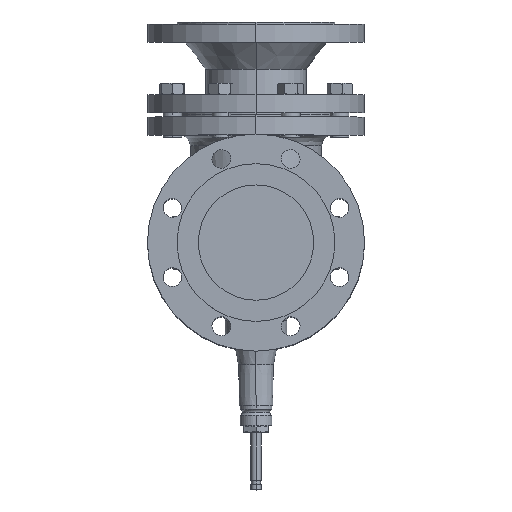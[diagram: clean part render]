
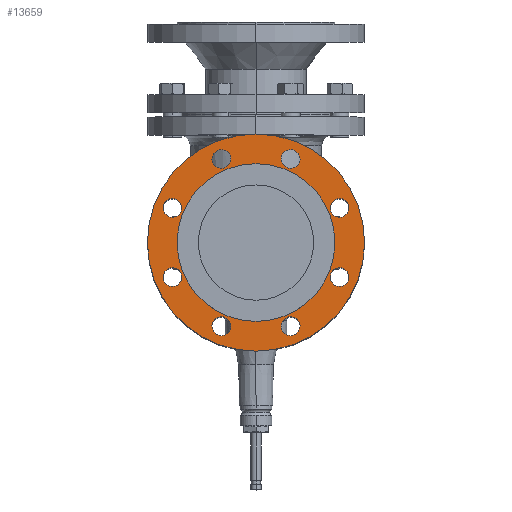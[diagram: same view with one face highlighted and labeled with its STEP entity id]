
A CAD part, top view. The second image highlights one B-rep face of the part: STEP entity #13659.
In plain terms, the highlighted free-form (B-spline) face has degree [1, 1] with [2, 2] control points.
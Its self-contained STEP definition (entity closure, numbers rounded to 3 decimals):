
#12394=CARTESIAN_POINT('',(0.,150.,477.));
#12395=VERTEX_POINT('',#12394);
#12411=CARTESIAN_POINT('',(0.,-150.,477.));
#12412=VERTEX_POINT('',#12411);
#12419=CARTESIAN_POINT('',(0.,0.,477.));
#12420=DIRECTION('',(0.0,0.0,-1.0));
#12421=DIRECTION('',(0.0,1.0,0.0));
#12422=AXIS2_PLACEMENT_3D('',#12419,#12420,#12421);
#12423=CIRCLE('',#12422,150.0);
#12424=EDGE_CURVE('',#12412,#12395,#12423,.T.);
#12455=CARTESIAN_POINT('',(-52.81,127.495,477.));
#12456=VERTEX_POINT('',#12455);
#12465=CARTESIAN_POINT('',(-42.861,103.475,477.));
#12466=VERTEX_POINT('',#12465);
#12467=CARTESIAN_POINT('',(-47.835,115.485,477.));
#12468=DIRECTION('',(0.,0.,1.0));
#12469=DIRECTION('',(-0.383,0.924,0.));
#12470=AXIS2_PLACEMENT_3D('',#12467,#12468,#12469);
#12471=CIRCLE('',#12470,13.);
#12472=EDGE_CURVE('',#12456,#12466,#12471,.T.);
#12518=CARTESIAN_POINT('',(-127.495,52.81,477.));
#12519=VERTEX_POINT('',#12518);
#12528=CARTESIAN_POINT('',(-103.475,42.861,477.));
#12529=VERTEX_POINT('',#12528);
#12530=CARTESIAN_POINT('',(-115.485,47.835,477.));
#12531=DIRECTION('',(0.,0.,1.));
#12532=DIRECTION('',(-0.924,0.383,0.));
#12533=AXIS2_PLACEMENT_3D('',#12530,#12531,#12532);
#12534=CIRCLE('',#12533,13.0);
#12535=EDGE_CURVE('',#12519,#12529,#12534,.T.);
#12581=CARTESIAN_POINT('',(-127.495,-52.81,477.));
#12582=VERTEX_POINT('',#12581);
#12591=CARTESIAN_POINT('',(-103.475,-42.861,477.));
#12592=VERTEX_POINT('',#12591);
#12593=CARTESIAN_POINT('',(-115.485,-47.835,477.));
#12594=DIRECTION('',(0.,0.,1.));
#12595=DIRECTION('',(-0.924,-0.383,0.));
#12596=AXIS2_PLACEMENT_3D('',#12593,#12594,#12595);
#12597=CIRCLE('',#12596,13.0);
#12598=EDGE_CURVE('',#12582,#12592,#12597,.T.);
#12644=CARTESIAN_POINT('',(-52.81,-127.495,477.));
#12645=VERTEX_POINT('',#12644);
#12654=CARTESIAN_POINT('',(-42.861,-103.475,477.));
#12655=VERTEX_POINT('',#12654);
#12656=CARTESIAN_POINT('',(-47.835,-115.485,477.));
#12657=DIRECTION('',(0.,0.,1.));
#12658=DIRECTION('',(-0.383,-0.924,0.));
#12659=AXIS2_PLACEMENT_3D('',#12656,#12657,#12658);
#12660=CIRCLE('',#12659,13.0);
#12661=EDGE_CURVE('',#12645,#12655,#12660,.T.);
#12707=CARTESIAN_POINT('',(52.81,-127.495,477.));
#12708=VERTEX_POINT('',#12707);
#12717=CARTESIAN_POINT('',(42.861,-103.475,477.));
#12718=VERTEX_POINT('',#12717);
#12719=CARTESIAN_POINT('',(47.835,-115.485,477.));
#12720=DIRECTION('',(0.,0.,1.));
#12721=DIRECTION('',(0.383,-0.924,0.));
#12722=AXIS2_PLACEMENT_3D('',#12719,#12720,#12721);
#12723=CIRCLE('',#12722,13.);
#12724=EDGE_CURVE('',#12708,#12718,#12723,.T.);
#12770=CARTESIAN_POINT('',(127.495,-52.81,477.));
#12771=VERTEX_POINT('',#12770);
#12780=CARTESIAN_POINT('',(103.475,-42.861,477.));
#12781=VERTEX_POINT('',#12780);
#12782=CARTESIAN_POINT('',(115.485,-47.835,477.));
#12783=DIRECTION('',(0.,0.,1.0));
#12784=DIRECTION('',(0.924,-0.383,0.));
#12785=AXIS2_PLACEMENT_3D('',#12782,#12783,#12784);
#12786=CIRCLE('',#12785,13.0);
#12787=EDGE_CURVE('',#12771,#12781,#12786,.T.);
#12833=CARTESIAN_POINT('',(127.495,52.81,477.));
#12834=VERTEX_POINT('',#12833);
#12843=CARTESIAN_POINT('',(103.475,42.861,477.));
#12844=VERTEX_POINT('',#12843);
#12845=CARTESIAN_POINT('',(115.485,47.835,477.));
#12846=DIRECTION('',(0.,0.,1.0));
#12847=DIRECTION('',(0.924,0.383,0.));
#12848=AXIS2_PLACEMENT_3D('',#12845,#12846,#12847);
#12849=CIRCLE('',#12848,13.);
#12850=EDGE_CURVE('',#12834,#12844,#12849,.T.);
#12896=CARTESIAN_POINT('',(52.81,127.495,477.));
#12897=VERTEX_POINT('',#12896);
#12906=CARTESIAN_POINT('',(42.861,103.475,477.));
#12907=VERTEX_POINT('',#12906);
#12908=CARTESIAN_POINT('',(47.835,115.485,477.));
#12909=DIRECTION('',(0.,0.,1.));
#12910=DIRECTION('',(0.383,0.924,0.));
#12911=AXIS2_PLACEMENT_3D('',#12908,#12909,#12910);
#12912=CIRCLE('',#12911,13.0);
#12913=EDGE_CURVE('',#12897,#12907,#12912,.T.);
#12959=CARTESIAN_POINT('',(0.,109.,477.));
#12960=VERTEX_POINT('',#12959);
#12969=CARTESIAN_POINT('',(0.,-109.,477.));
#12970=VERTEX_POINT('',#12969);
#12971=CARTESIAN_POINT('',(0.,0.,477.));
#12972=DIRECTION('',(0.0,0.0,1.0));
#12973=DIRECTION('',(0.0,1.0,0.0));
#12974=AXIS2_PLACEMENT_3D('',#12971,#12972,#12973);
#12975=CIRCLE('',#12974,109.0);
#12976=EDGE_CURVE('',#12960,#12970,#12975,.T.);
#13139=CARTESIAN_POINT('',(0.,0.,477.));
#13140=DIRECTION('',(0.0,0.0,1.0));
#13141=DIRECTION('',(0.0,1.0,0.0));
#13142=AXIS2_PLACEMENT_3D('',#13139,#13140,#13141);
#13143=CIRCLE('',#13142,109.0);
#13144=EDGE_CURVE('',#12970,#12960,#13143,.T.);
#13198=CARTESIAN_POINT('',(47.835,115.485,477.));
#13199=DIRECTION('',(0.,0.,1.));
#13200=DIRECTION('',(0.383,0.924,0.));
#13201=AXIS2_PLACEMENT_3D('',#13198,#13199,#13200);
#13202=CIRCLE('',#13201,13.0);
#13203=EDGE_CURVE('',#12907,#12897,#13202,.T.);
#13243=CARTESIAN_POINT('',(115.485,47.835,477.));
#13244=DIRECTION('',(0.,0.,1.0));
#13245=DIRECTION('',(0.924,0.383,0.));
#13246=AXIS2_PLACEMENT_3D('',#13243,#13244,#13245);
#13247=CIRCLE('',#13246,13.);
#13248=EDGE_CURVE('',#12844,#12834,#13247,.T.);
#13288=CARTESIAN_POINT('',(115.485,-47.835,477.));
#13289=DIRECTION('',(0.,0.,1.0));
#13290=DIRECTION('',(0.924,-0.383,0.));
#13291=AXIS2_PLACEMENT_3D('',#13288,#13289,#13290);
#13292=CIRCLE('',#13291,13.0);
#13293=EDGE_CURVE('',#12781,#12771,#13292,.T.);
#13333=CARTESIAN_POINT('',(47.835,-115.485,477.));
#13334=DIRECTION('',(0.,0.,1.));
#13335=DIRECTION('',(0.383,-0.924,0.));
#13336=AXIS2_PLACEMENT_3D('',#13333,#13334,#13335);
#13337=CIRCLE('',#13336,13.);
#13338=EDGE_CURVE('',#12718,#12708,#13337,.T.);
#13378=CARTESIAN_POINT('',(-47.835,-115.485,477.));
#13379=DIRECTION('',(0.,0.,1.));
#13380=DIRECTION('',(-0.383,-0.924,0.));
#13381=AXIS2_PLACEMENT_3D('',#13378,#13379,#13380);
#13382=CIRCLE('',#13381,13.0);
#13383=EDGE_CURVE('',#12655,#12645,#13382,.T.);
#13423=CARTESIAN_POINT('',(-115.485,-47.835,477.));
#13424=DIRECTION('',(0.,0.,1.));
#13425=DIRECTION('',(-0.924,-0.383,0.));
#13426=AXIS2_PLACEMENT_3D('',#13423,#13424,#13425);
#13427=CIRCLE('',#13426,13.0);
#13428=EDGE_CURVE('',#12592,#12582,#13427,.T.);
#13468=CARTESIAN_POINT('',(-115.485,47.835,477.));
#13469=DIRECTION('',(0.,0.,1.));
#13470=DIRECTION('',(-0.924,0.383,0.));
#13471=AXIS2_PLACEMENT_3D('',#13468,#13469,#13470);
#13472=CIRCLE('',#13471,13.0);
#13473=EDGE_CURVE('',#12529,#12519,#13472,.T.);
#13513=CARTESIAN_POINT('',(-47.835,115.485,477.));
#13514=DIRECTION('',(0.,0.,1.0));
#13515=DIRECTION('',(-0.383,0.924,0.));
#13516=AXIS2_PLACEMENT_3D('',#13513,#13514,#13515);
#13517=CIRCLE('',#13516,13.);
#13518=EDGE_CURVE('',#12466,#12456,#13517,.T.);
#13550=CARTESIAN_POINT('',(0.,0.,477.));
#13551=DIRECTION('',(0.0,0.0,-1.0));
#13552=DIRECTION('',(0.0,1.0,0.0));
#13553=AXIS2_PLACEMENT_3D('',#13550,#13551,#13552);
#13554=CIRCLE('',#13553,150.0);
#13555=EDGE_CURVE('',#12395,#12412,#13554,.T.);
#13614=CARTESIAN_POINT('',(150.,-150.,477.));
#13615=CARTESIAN_POINT('',(150.,150.,477.));
#13616=CARTESIAN_POINT('',(-150.,-150.,477.));
#13617=CARTESIAN_POINT('',(-150.,150.,477.));
#13618=B_SPLINE_SURFACE_WITH_KNOTS('',1,1,((#13614,#13616),(#13615,#13617)),.UNSPECIFIED.,.F.,.F.,.U.,(2,2),(2,2),(0.0,300.),(0.0,300.),.UNSPECIFIED.);
#13619=ORIENTED_EDGE('',*,*,#13555,.F.);
#13620=ORIENTED_EDGE('',*,*,#12424,.F.);
#13621=EDGE_LOOP('',(#13619,#13620));
#13622=FACE_OUTER_BOUND('',#13621,.T.);
#13623=ORIENTED_EDGE('',*,*,#12976,.F.);
#13624=ORIENTED_EDGE('',*,*,#13144,.F.);
#13625=EDGE_LOOP('',(#13623,#13624));
#13626=FACE_BOUND('',#13625,.T.);
#13627=ORIENTED_EDGE('',*,*,#12913,.F.);
#13628=ORIENTED_EDGE('',*,*,#13203,.F.);
#13629=EDGE_LOOP('',(#13627,#13628));
#13630=FACE_BOUND('',#13629,.T.);
#13631=ORIENTED_EDGE('',*,*,#12850,.F.);
#13632=ORIENTED_EDGE('',*,*,#13248,.F.);
#13633=EDGE_LOOP('',(#13631,#13632));
#13634=FACE_BOUND('',#13633,.T.);
#13635=ORIENTED_EDGE('',*,*,#12787,.F.);
#13636=ORIENTED_EDGE('',*,*,#13293,.F.);
#13637=EDGE_LOOP('',(#13635,#13636));
#13638=FACE_BOUND('',#13637,.T.);
#13639=ORIENTED_EDGE('',*,*,#12724,.F.);
#13640=ORIENTED_EDGE('',*,*,#13338,.F.);
#13641=EDGE_LOOP('',(#13639,#13640));
#13642=FACE_BOUND('',#13641,.T.);
#13643=ORIENTED_EDGE('',*,*,#12661,.F.);
#13644=ORIENTED_EDGE('',*,*,#13383,.F.);
#13645=EDGE_LOOP('',(#13643,#13644));
#13646=FACE_BOUND('',#13645,.T.);
#13647=ORIENTED_EDGE('',*,*,#12598,.F.);
#13648=ORIENTED_EDGE('',*,*,#13428,.F.);
#13649=EDGE_LOOP('',(#13647,#13648));
#13650=FACE_BOUND('',#13649,.T.);
#13651=ORIENTED_EDGE('',*,*,#12535,.F.);
#13652=ORIENTED_EDGE('',*,*,#13473,.F.);
#13653=EDGE_LOOP('',(#13651,#13652));
#13654=FACE_BOUND('',#13653,.T.);
#13655=ORIENTED_EDGE('',*,*,#12472,.F.);
#13656=ORIENTED_EDGE('',*,*,#13518,.F.);
#13657=EDGE_LOOP('',(#13655,#13656));
#13658=FACE_BOUND('',#13657,.T.);
#13659=ADVANCED_FACE('',(#13622,#13626,#13630,#13634,#13638,#13642,#13646,#13650,#13654,#13658),#13618,.T.);
